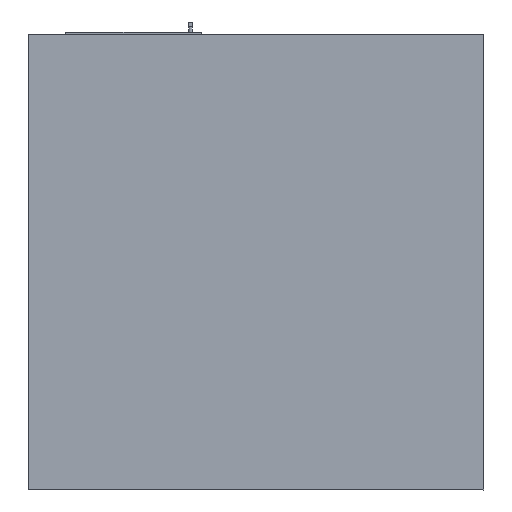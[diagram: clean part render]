
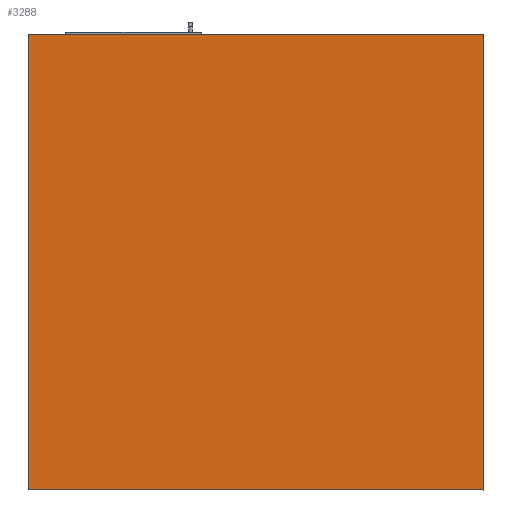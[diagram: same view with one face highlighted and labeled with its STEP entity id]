
A CAD part, front view. The second image highlights one B-rep face of the part: STEP entity #3288.
In plain terms, the highlighted planar face has unit normal (0, -1, 0).
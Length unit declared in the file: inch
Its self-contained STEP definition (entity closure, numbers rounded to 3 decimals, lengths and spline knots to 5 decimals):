
#140=FACE_OUTER_BOUND('',#297,.T.);
#297=EDGE_LOOP('',(#2650,#2651,#2652,#2653));
#384=LINE('',#4376,#831);
#731=LINE('',#5056,#1178);
#733=LINE('',#5060,#1180);
#734=LINE('',#5062,#1181);
#831=VECTOR('',#3578,0.3937);
#1178=VECTOR('',#4087,0.3937);
#1180=VECTOR('',#4091,0.3937);
#1181=VECTOR('',#4094,0.3937);
#1276=VERTEX_POINT('',#4373);
#1277=VERTEX_POINT('',#4375);
#1529=VERTEX_POINT('',#5054);
#1530=VERTEX_POINT('',#5058);
#1594=EDGE_CURVE('',#1276,#1277,#384,.T.);
#1941=EDGE_CURVE('',#1529,#1276,#731,.T.);
#1943=EDGE_CURVE('',#1530,#1277,#733,.T.);
#1944=EDGE_CURVE('',#1529,#1530,#734,.T.);
#2650=ORIENTED_EDGE('',*,*,#1944,.T.);
#2651=ORIENTED_EDGE('',*,*,#1943,.T.);
#2652=ORIENTED_EDGE('',*,*,#1594,.F.);
#2653=ORIENTED_EDGE('',*,*,#1941,.F.);
#3073=PLANE('',#3463);
#3288=ADVANCED_FACE('',(#140),#3073,.T.);
#3463=AXIS2_PLACEMENT_3D('',#5061,#4092,#4093);
#3578=DIRECTION('',(1.,0.,0.));
#4087=DIRECTION('',(0.,0.,1.));
#4091=DIRECTION('',(0.,0.,1.));
#4092=DIRECTION('center_axis',(0.,-1.,0.));
#4093=DIRECTION('ref_axis',(1.,0.,0.));
#4094=DIRECTION('',(1.,0.,0.));
#4373=CARTESIAN_POINT('',(-88.99891,275.0909,79.46144));
#4375=CARTESIAN_POINT('',(31.00109,275.0997,79.45664));
#4376=CARTESIAN_POINT('',(-88.99891,275.0909,79.46144));
#5054=CARTESIAN_POINT('',(-89.0037,275.09966,-40.53856));
#5056=CARTESIAN_POINT('',(-89.0037,275.09966,-40.53856));
#5058=CARTESIAN_POINT('',(30.9963,275.10846,-40.54336));
#5060=CARTESIAN_POINT('',(30.9963,275.10846,-40.54336));
#5061=CARTESIAN_POINT('Origin',(-89.0037,275.09966,-40.53856));
#5062=CARTESIAN_POINT('',(-89.0037,275.09966,-40.53856));
